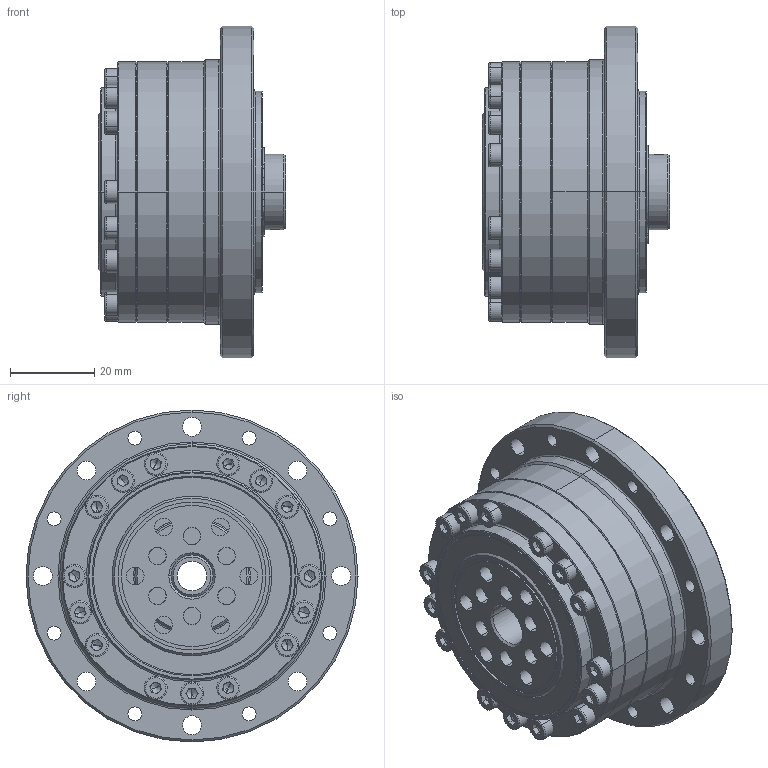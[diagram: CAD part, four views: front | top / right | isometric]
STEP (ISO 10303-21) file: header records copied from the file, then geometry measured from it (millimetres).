
FILE_DESCRIPTION (( 'STEP AP203' ), '1' );
FILE_NAME ('LCSG-17-XXX-C-II.STEP', '2016-08-25T08:22:13', ( 'Windows 蚚誧' ), ( 'Users' ), 'SwSTEP 2.0', 'SolidWorks 2013', '' );
FILE_SCHEMA (( 'CONFIG_CONTROL_DESIGN' ));
Length unit declared in the file: millimetre
Products named in the file (18): LCSG-17-II疏楷汜ん; LJ-17G-II; LCSG-17-XXX-P01-II; LCSG-17-XXX-C-II; SZ-17G-II; LCSG-17-XXX-P02-II; LCSG-17-XXX-P03-II; LCSG-17-XXX-P04-II; DB-17G-II; 15Z-38475; 粣噤18; socket head cap screw_din_内六角圆柱头螺钉M3 x 10; RZC-17G内外圈+钢球; socket head cap screw_din_内六角圆柱头螺钉M3 x 16; RZC-17悵厥殤; LCSG-17-XXX-P05-II; 柔性轴承RZC-17G; socket head cap screw_din_内六角圆柱头螺钉M5 x 16
Assembly tree (35 placements, depth 4):
  LCSG-17-XXX-C-II
    LCSG-17-XXX-P01-II
    LCSG-17-XXX-P02-II
    LCSG-17-XXX-P04-II
    15Z-38475
    socket head cap screw_din_内六角圆柱头螺钉M3 x 10  x5
    socket head cap screw_din_内六角圆柱头螺钉M3 x 16  x10
    LCSG-17-XXX-P05-II
    socket head cap screw_din_内六角圆柱头螺钉M5 x 16  x6
    LCSG-17-II疏楷汜ん
      LJ-17G-II
      SZ-17G-II
      LCSG-17-XXX-P03-II
      DB-17G-II
      粣噤18
      柔性轴承RZC-17G
        RZC-17G内外圈+钢球
        RZC-17悵厥殤
Bounding box: 44.5 x 79 x 79 mm (x, y, z)
Volume: 96515.2 mm3; surface area: 72505.7 mm2
Topology: 58 solids, 58 shells, 1252 faces, 2955 edges, 1797 vertices
Faces by surface type: plane 461, cylinder 426, cone 175, torus 142, sphere 46, bspline 2
Entity records: 25083 total; most frequent: DIRECTION 4439, CARTESIAN_POINT 3960, ORIENTED_EDGE 3540, AXIS2_PLACEMENT_3D 1889, EDGE_CURVE 1770, VERTEX_POINT 1134, CIRCLE 1085, EDGE_LOOP 960
